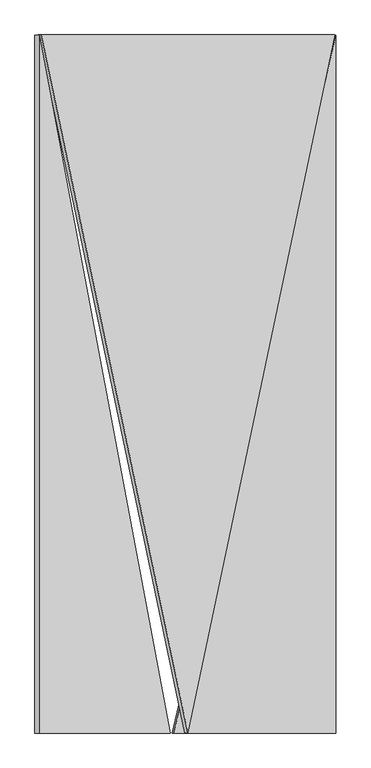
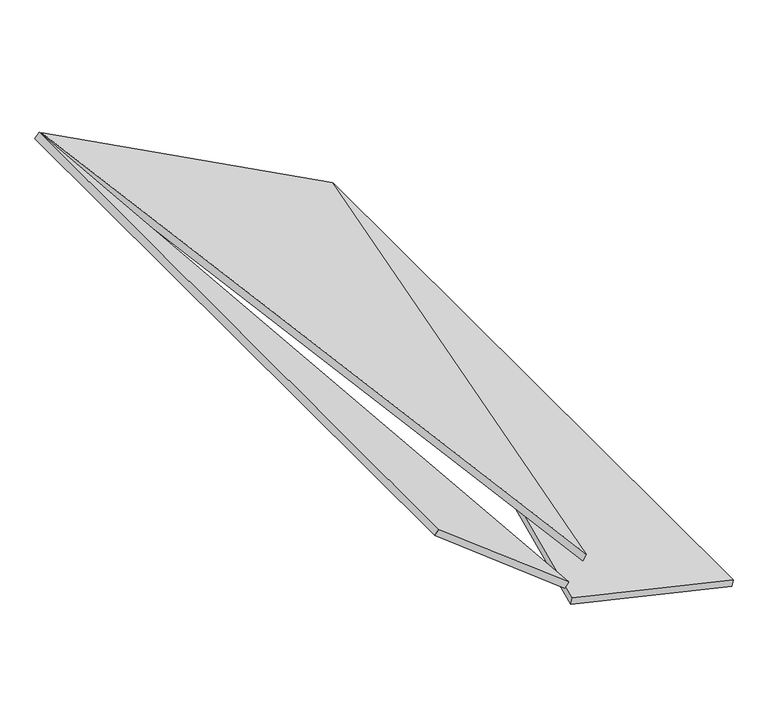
"""IFC4 building model written with IfcOpenShell, lengths in millimetres: proxy geometry, panel sufitowy 6 : panel sufitowy 6."""

from ifc_helpers import new_model, si_unit, frame, origin, place, context, project, spatial, polyline, outline, extrude, source, transform, mapped, element, save


def generic_models_b94cf159(model_context):
    return source(origin(), model_context, "Body", "SweptSolid", [
        extrude(outline(polyline([(-900.9098917, 0.0), (1235.4098448, -1e-07), (1006.1909889, -962.7191946), (-900.9098917, 0.0)])), frame((477.6535689, -1457.4151922, 928.0384882), z_axis=(0.4694715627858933, 0.0, 0.8829475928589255), x_axis=(-0.20450878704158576, 0.9728062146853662, 0.1087392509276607)), (0.0, 0.0, 1.0), 20.0),
        extrude(outline(polyline([(-127.5, 0.0), (-622.5000001, 0.0), (-127.5, 2079.0), (-127.5, 0.0)])), frame((1231.771457, -2335.0, 564.4410587), z_axis=(0.22495105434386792, 0.0, 0.9743700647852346), x_axis=(0.9743700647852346, 0.0, -0.22495105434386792)), (0.0, 0.0, 1.0), 20.0),
        extrude(outline(polyline([(-127.5, 0.0), (-127.5, -2079.0), (-622.5000001, 0.0), (-127.5, 0.0)])), frame((115.2908338, -2335.0, 1145.7854346), z_axis=(0.6156614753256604, 0.0, 0.7880107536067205), x_axis=(-0.7880107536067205, 0.0, 0.6156614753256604)), (0.0, 0.0, 1.0), 20.0),
    ])


if __name__ == "__main__":
    model = new_model("IFC4")
    model_context = context("Model", 3, world=origin())
    ifc_project = project(units=[si_unit("LENGTHUNIT", "METRE", prefix="MILLI")], contexts=[model_context])
    site = spatial("IfcSite", under=ifc_project)
    building = spatial("IfcBuilding", under=site)
    placement = place(None, origin())
    generic_models_shape = generic_models_b94cf159(model_context)
    element("IfcBuildingElementProxy", 1, Name="panel sufitowy 6 : panel sufitowy 6", ObjectType="panel sufitowy 6 : panel sufitowy 6", at=placement, inside=building, context=model_context, shape_type="MappedRepresentation", body=[
        mapped(generic_models_shape, transform((0.0, 0.0, 0.0), x_axis=(1.0, 0.0, 0.0), y_axis=(0.0, 1.0, 0.0), z_axis=(0.0, 0.0, 1.0))),
    ])
    save(model, "model.ifc")
